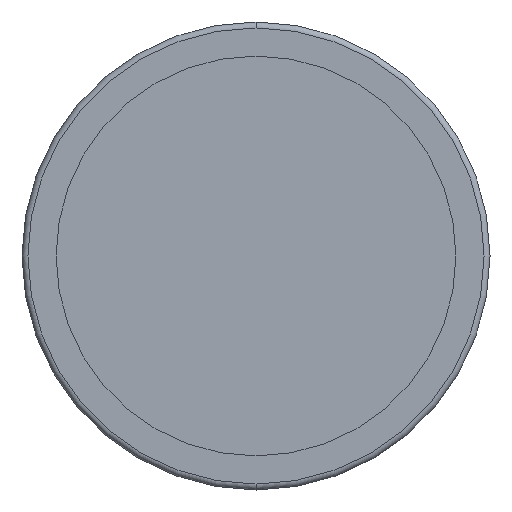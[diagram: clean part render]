
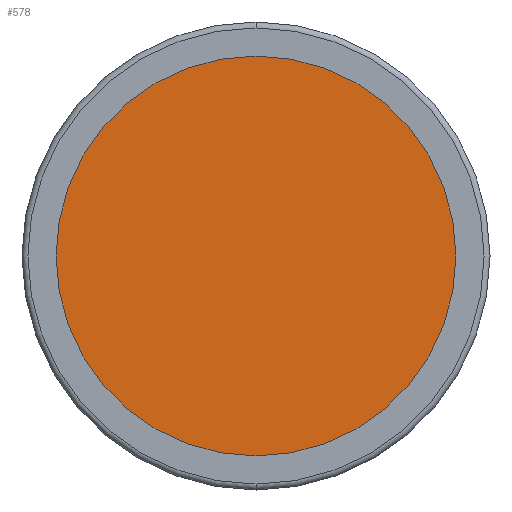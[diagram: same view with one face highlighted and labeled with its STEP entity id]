
A CAD part, front view. The second image highlights one B-rep face of the part: STEP entity #578.
In plain terms, the highlighted planar face has unit normal (0, -1, 0).
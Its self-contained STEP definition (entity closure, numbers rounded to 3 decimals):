
#39 = CARTESIAN_POINT ( 'NONE',  ( -33.75, -2., 0. ) ) ;
#73 = CARTESIAN_POINT ( 'NONE',  ( 0., -2., 33.75 ) ) ;
#86 = VERTEX_POINT ( 'NONE', #2561 ) ;
#112 = VERTEX_POINT ( 'NONE', #73 ) ;
#265 = DIRECTION ( 'NONE',  ( 0., 1., 0. ) ) ;
#312 = DIRECTION ( 'NONE',  ( 0., 1., 0. ) ) ;
#554 = AXIS2_PLACEMENT_3D ( 'NONE', #39, #1043, #2606 ) ;
#578 = ADVANCED_FACE ( 'NONE', ( #2555 ), #1348, .T. ) ;
#588 = EDGE_LOOP ( 'NONE', ( #1189, #1825 ) ) ;
#677 = EDGE_CURVE ( 'NONE', #112, #86, #986, .T. ) ;
#758 = CARTESIAN_POINT ( 'NONE',  ( 0., -2., 0. ) ) ;
#986 = CIRCLE ( 'NONE', #3133, 33.75 ) ;
#1043 = DIRECTION ( 'NONE',  ( 0., -1., 0. ) ) ;
#1157 = AXIS2_PLACEMENT_3D ( 'NONE', #758, #265, #1728 ) ;
#1189 = ORIENTED_EDGE ( 'NONE', *, *, #677, .F. ) ;
#1348 = PLANE ( 'NONE',  #554 ) ;
#1728 = DIRECTION ( 'NONE',  ( 0., 0., 1. ) ) ;
#1771 = DIRECTION ( 'NONE',  ( 0., 0., 1. ) ) ;
#1825 = ORIENTED_EDGE ( 'NONE', *, *, #2115, .F. ) ;
#2115 = EDGE_CURVE ( 'NONE', #86, #112, #3139, .T. ) ;
#2254 = CARTESIAN_POINT ( 'NONE',  ( 0., -2., 0. ) ) ;
#2555 = FACE_OUTER_BOUND ( 'NONE', #588, .T. ) ;
#2561 = CARTESIAN_POINT ( 'NONE',  ( 0., -2., -33.75 ) ) ;
#2606 = DIRECTION ( 'NONE',  ( 0., 0., -1. ) ) ;
#3133 = AXIS2_PLACEMENT_3D ( 'NONE', #2254, #312, #1771 ) ;
#3139 = CIRCLE ( 'NONE', #1157, 33.75 ) ;
